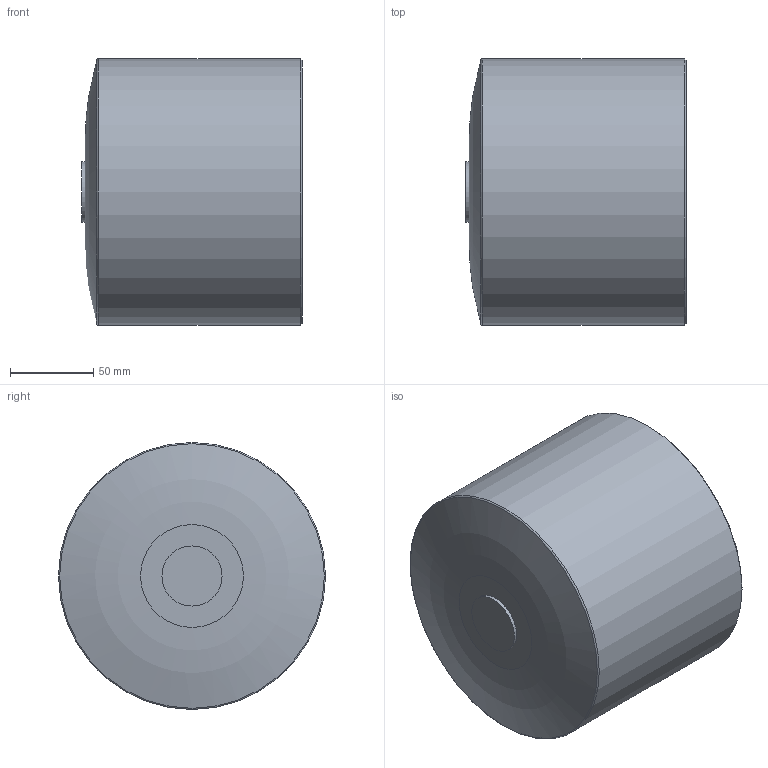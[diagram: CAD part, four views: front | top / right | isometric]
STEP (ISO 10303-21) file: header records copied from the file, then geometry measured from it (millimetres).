
FILE_DESCRIPTION(/* description */ ('Unknown'),/* implementation_level */ '2;1');
FILE_NAME(/* name */ 'CAP160C',/* time_stamp */ '2021-02-04T09:47:17+01:00',/* author */ ('Unknown'),/* organization */ ('Unknown'),/* preprocessor_version */ 'ST-DEVELOPER v16.7',/* originating_system */ 'Solid Edge',/* authorisation */ 'Unknown');
FILE_SCHEMA (('AUTOMOTIVE_DESIGN {1 0 10303 214 3 1 1}'));
Length unit declared in the file: millimetre
Products named in the file (1): CAP160C
Bounding box: 132 x 160 x 160 mm (x, y, z)
Volume: 1077959.2 mm3; surface area: 146004 mm2
Topology: 1 solids, 1 shells, 12 faces, 20 edges, 12 vertices
Faces by surface type: plane 4, torus 4, cylinder 3, cone 1
Full cylindrical faces by diameter (mm): 36 x1, 130.8 x1, 160 x1
Entity records: 264 total; most frequent: DIRECTION 48, CARTESIAN_POINT 35, AXIS2_PLACEMENT_3D 24, ORIENTED_EDGE 22, EDGE_LOOP 22, FACE_BOUND 22, ADVANCED_FACE 12, EDGE_CURVE 11
